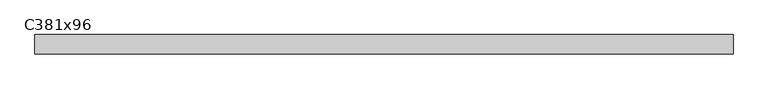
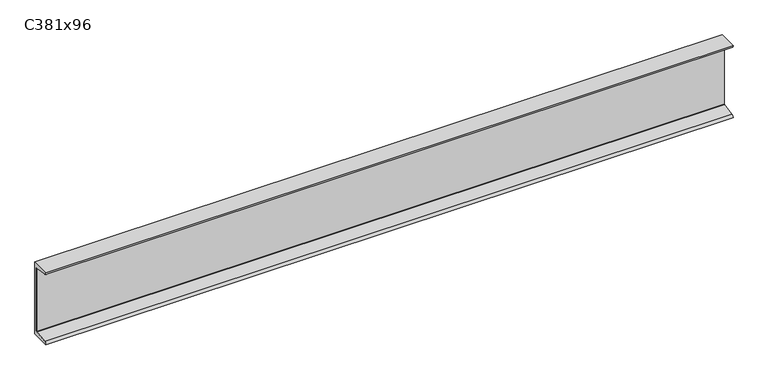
"""IFC4 building model written with IfcOpenShell, lengths in millimetres: beam geometry, M_C-Channel_305x105 : C381x96."""

from ifc_helpers import new_model, si_unit, point, frame, frame_2d, origin, place, context, project, spatial, polyline, circle_curve, trimmed, segment, composite_curve, outline, extrude, source, transform, mapped, element, save


def c381x96_93085bd0(model_context):
    return source(origin(), model_context, "Body", "SweptSolid", [
        extrude(outline(composite_curve([segment(polyline([(16.8909985, 190.5), (16.8909985, -190.5), (-79.1090015, -190.5)]), True, "CONTINUOUS"), segment(trimmed(circle_curve(frame_2d((-66.4090015, -190.5)), 12.7), [point((-79.1090015, -190.5))], [point((-66.4090015, -177.8))], False, "CARTESIAN"), True, "CONTINUOUS"), segment(polyline([(-66.4090015, -177.8), (3.8909985, -166.6655738), (3.8909985, 166.6655738), (-66.4090015, 177.8)]), True, "CONTINUOUS"), segment(trimmed(circle_curve(frame_2d((-66.4090015, 190.5)), 12.7), [point((-66.4090015, 177.8))], [point((-79.1090015, 190.5))], False, "CARTESIAN"), True, "CONTINUOUS"), segment(polyline([(-79.1090015, 190.5), (16.8909985, 190.5)]), True, "CONTINUOUS")], self_intersect=False)), frame((81.1462653, 0.0, 0.0), z_axis=(1.0, 0.0, 0.0), x_axis=(0.0, 1.0, 0.0)), (0.0, 0.0, 1.0), 3439.0),
        extrude(outline(polyline([(-4.2340015, 166.8239583), (0.8909985, 166.012238), (0.8909985, -166.012238), (-4.2340015, -166.8239583), (-4.2340015, -164.495707), (-4.2340015, 166.8239583)])), frame((81.1462653, 0.0, 0.0), z_axis=(1.0, 0.0, 0.0), x_axis=(0.0, 1.0, 0.0)), (0.0, 0.0, 1.0), 3439.0),
    ])


if __name__ == "__main__":
    model = new_model("IFC4")
    model_context = context("Model", 3, world=origin())
    ifc_project = project(units=[si_unit("LENGTHUNIT", "METRE", prefix="MILLI")], contexts=[model_context])
    site = spatial("IfcSite", under=ifc_project)
    building = spatial("IfcBuilding", under=site)
    placement = place(None, origin())
    c381x96_shape = c381x96_93085bd0(model_context)
    element("IfcBeam", 1, ObjectType="M_C-Channel_305x105 : C381x96", at=placement, inside=building, context=model_context, shape_type="MappedRepresentation", body=[
        mapped(c381x96_shape, transform((0.0, 0.0, 0.0), x_axis=(1.0, 0.0, 0.0), y_axis=(0.0, 1.0, 0.0), z_axis=(0.0, 0.0, 1.0))),
    ])
    save(model, "model.ifc")
